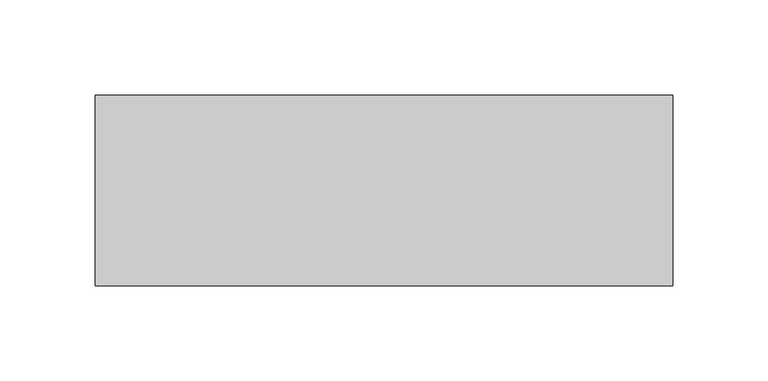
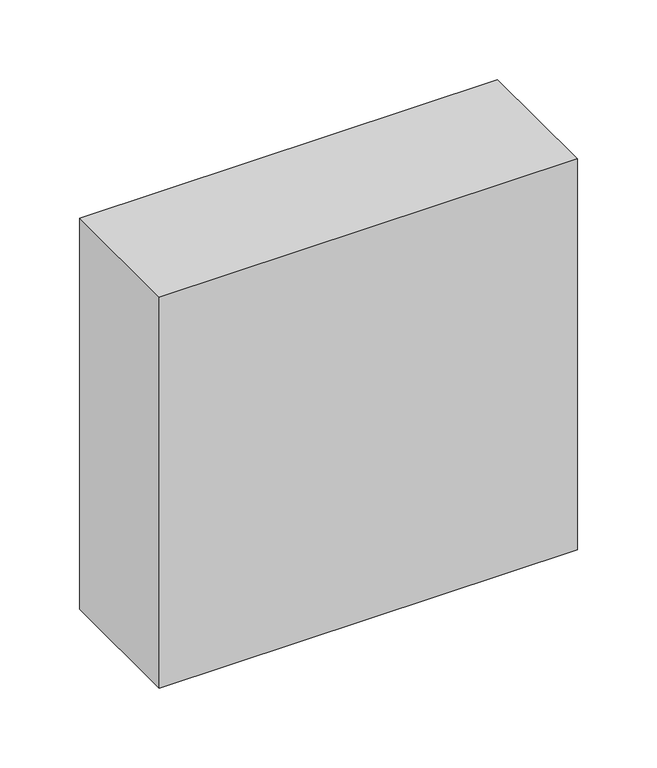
"""IFC4 building model written with IfcOpenShell, lengths in millimetres: plate geometry, 空系统嵌板 : 空."""

import ifcopenshell
import ifcopenshell.guid

model = None  # the IFC model being written
_history = None  # IfcOwnerHistory: only IFC2X3 demands one
_inside = {}  # id of a spatial element -> (the spatial element, [elements in it])
_under = {}  # id of a project, library or spatial element -> (it, [spatial elements below it])
_declared = {}  # id of a project -> (the project, [libraries it declares])
_typed = {}  # id of a type object -> (the type object, [elements of that type])
_made_of = {}  # id of a material, layer set ... -> (it, [elements and type objects made of it])


def new_model(schema):
    """Start an empty IFC model of exactly this schema.

    Asked for "IFC4X3", IfcOpenShell would pick the latest addendum, in which some entities
    have other attributes; the version numbers below select the first issue.
    IFC2X3 requires an IfcOwnerHistory on every rooted entity: one is made here for all.
    """
    global model, _history
    if schema == "IFC4X3":
        model = ifcopenshell.file(schema_version=(4, 3, 0, 0))
    else:
        model = ifcopenshell.file(schema=schema)
    _inside.clear()
    _under.clear()
    _declared.clear()
    _typed.clear()
    _made_of.clear()
    _history = None
    if model.schema == "IFC2X3":
        org = make("IfcOrganization", Name="unknown")
        user = make(
            "IfcPersonAndOrganization",
            ThePerson=make("IfcPerson", FamilyName="unknown"),
            TheOrganization=org,
        )
        app = make(
            "IfcApplication",
            ApplicationDeveloper=org,
            Version="unknown",
            ApplicationFullName="unknown",
            ApplicationIdentifier="unknown",
        )
        _history = make(
            "IfcOwnerHistory",
            OwningUser=user,
            OwningApplication=app,
            ChangeAction="ADDED",
            CreationDate=0,
        )
    return model


def make(cls, **values):
    """One entity of the class cls with the attributes given. An attribute that is None is left unset."""
    return model.create_entity(
        cls, **{name: value for name, value in values.items() if value is not None}
    )


def rooted(cls, **values):
    """An entity with a GlobalId (a new one), such as an element, a storey or a relation."""
    return make(cls, GlobalId=ifcopenshell.guid.new(), OwnerHistory=_history, **values)


def si_unit(unit_type, name, prefix=None):
    """IfcSIUnit, for example si_unit("LENGTHUNIT", "METRE", prefix="MILLI")."""
    return make("IfcSIUnit", UnitType=unit_type, Prefix=prefix, Name=name)


def assignment(units):
    """IfcUnitAssignment: the units of a project."""
    return None if units is None else make("IfcUnitAssignment", Units=units)


def point(xyz):
    """IfcCartesianPoint."""
    return None if xyz is None else make("IfcCartesianPoint", Coordinates=xyz)


def direction(xyz):
    """IfcDirection."""
    return None if xyz is None else make("IfcDirection", DirectionRatios=xyz)


def frame(location, z_axis=None, x_axis=None):
    """IfcAxis2Placement3D, a coordinate frame: its origin and axes. An axis left out is left unset."""
    return make(
        "IfcAxis2Placement3D",
        Location=point(location),
        Axis=direction(z_axis),
        RefDirection=direction(x_axis),
    )


def origin():
    """The frame at (0, 0, 0) with its axes left unset."""
    return frame((0.0, 0.0, 0.0))


def origin_with_axes():
    """The frame at (0, 0, 0) with the z axis (0, 0, 1) and the x axis (1, 0, 0) written out."""
    return frame((0.0, 0.0, 0.0), z_axis=(0.0, 0.0, 1.0), x_axis=(1.0, 0.0, 0.0))


def place(relative_to, where):
    """IfcLocalPlacement: puts the frame where relative to a parent placement (None: the world)."""
    return make(
        "IfcLocalPlacement", PlacementRelTo=relative_to, RelativePlacement=where
    )


def context(
    kind, dimensions, precision=None, world=None, true_north=None, identifier=None
):
    """IfcGeometricRepresentationContext, for example the 3D "Model" context."""
    return make(
        "IfcGeometricRepresentationContext",
        ContextIdentifier=identifier,
        ContextType=kind,
        CoordinateSpaceDimension=dimensions,
        Precision=precision,
        WorldCoordinateSystem=world,
        TrueNorth=true_north,
    )


def project(units=None, contexts=None):
    """IfcProject with its units and contexts."""
    return rooted(
        "IfcProject",
        Name="project",
        RepresentationContexts=contexts,
        UnitsInContext=assignment(units),
    )


def spatial(cls, under=None, at=None, **own):
    """A site, building, storey or space (cls), placed at a placement, below another one or the project."""
    s = rooted(cls, ObjectPlacement=at, **own)
    if under is not None:
        _under.setdefault(under.id(), (under, []))[1].append(s)
    return s


def polyline(points):
    """IfcPolyline through the points."""
    return make("IfcPolyline", Points=[point(p) for p in points])


def outline(outer, holes=None, kind="AREA"):
    """IfcArbitraryClosedProfileDef: a profile drawn as a closed curve; with holes, ...WithVoids."""
    if holes is None:
        return make("IfcArbitraryClosedProfileDef", ProfileType=kind, OuterCurve=outer)
    return make(
        "IfcArbitraryProfileDefWithVoids",
        ProfileType=kind,
        OuterCurve=outer,
        InnerCurves=holes,
    )


def extrude(swept, where, along, depth):
    """IfcExtrudedAreaSolid: the profile swept, set in the frame where, extruded along a direction by depth."""
    return make(
        "IfcExtrudedAreaSolid",
        SweptArea=swept,
        Position=where,
        ExtrudedDirection=direction(along),
        Depth=depth,
    )


def shape(context_of_items, identifier, shape_type, items):
    """IfcShapeRepresentation: the items that make up one representation, for example the "Body"."""
    return make(
        "IfcShapeRepresentation",
        ContextOfItems=context_of_items,
        RepresentationIdentifier=identifier,
        RepresentationType=shape_type,
        Items=items,
    )


def source(mapping_origin, context_of_items, identifier, shape_type, items):
    """IfcRepresentationMap: a shape defined once, which mapped items show again and again."""
    return make(
        "IfcRepresentationMap",
        MappingOrigin=mapping_origin,
        MappedRepresentation=shape(context_of_items, identifier, shape_type, items),
    )


def transform(
    local_origin,
    x_axis=None,
    y_axis=None,
    z_axis=None,
    scale=None,
    scale2=None,
    scale3=None,
    uniform=True,
):
    """IfcCartesianTransformationOperator3D, or its non-uniform kind. x_axis, y_axis, z_axis: its Axis1, 2, 3."""
    if uniform:
        return make(
            "IfcCartesianTransformationOperator3D",
            Axis1=direction(x_axis),
            Axis2=direction(y_axis),
            LocalOrigin=point(local_origin),
            Scale=scale,
            Axis3=direction(z_axis),
        )
    return make(
        "IfcCartesianTransformationOperator3DnonUniform",
        Axis1=direction(x_axis),
        Axis2=direction(y_axis),
        LocalOrigin=point(local_origin),
        Scale=scale,
        Axis3=direction(z_axis),
        Scale2=scale2,
        Scale3=scale3,
    )


def mapped(mapping_source, mapping_target):
    """IfcMappedItem: shows the shape of a source again, moved by a transform."""
    return make(
        "IfcMappedItem", MappingSource=mapping_source, MappingTarget=mapping_target
    )


def made_of(thing, what):
    """Note that an element or type object is made of a material, layer set ...; save() writes the relation."""
    if what is not None:
        _made_of.setdefault(what.id(), (what, []))[1].append(thing)
    return thing


def element(
    cls,
    number,
    at=None,
    inside=None,
    cuts=None,
    type_object=None,
    material=None,
    context=None,
    identifier="Body",
    shape_type=None,
    held_by="IfcProductDefinitionShape",
    body=None,
    shapes=None,
    **own,
):
    """One element of the class cls, such as IfcWall. Its Tag is "e" and its number.

    at: its placement. inside: the storey or other place that contains it. cuts: it is an
    opening in that element (IfcRelVoidsElement). A single representation is given by context,
    identifier, shape_type and body (its items); several are given by shapes. held_by: the class
    of the entity that holds the representations. save() writes the other relations.
    """
    e = rooted(cls, Tag="e%d" % number, ObjectPlacement=at, **own)
    if body is not None:
        shapes = [shape(context, identifier, shape_type, body)]
    if shapes is not None:
        e.Representation = make(held_by, Representations=shapes)
    if inside is not None:
        _inside.setdefault(inside.id(), (inside, []))[1].append(e)
    if cuts is not None:
        rooted(
            "IfcRelVoidsElement", RelatingBuildingElement=cuts, RelatedOpeningElement=e
        )
    if type_object is not None:
        _typed.setdefault(type_object.id(), (type_object, []))[1].append(e)
    return made_of(e, material)


def aggregate(whole, parts):
    """IfcRelAggregates: a whole, such as a stair, and the parts it consists of."""
    return rooted("IfcRelAggregates", RelatingObject=whole, RelatedObjects=parts)


def save(model, path):
    """Write the relations noted so far, then the file.

    IfcRelAggregates (storeys below a building ...), IfcRelContainedInSpatialStructure (elements
    in a storey), IfcRelDefinesByType, IfcRelAssociatesMaterial and IfcRelDeclares: one each for
    every whole, place, type object, material and project.
    """
    for whole, parts in _under.values():
        aggregate(whole, parts)
    for where, things in _inside.values():
        rooted(
            "IfcRelContainedInSpatialStructure",
            RelatedElements=things,
            RelatingStructure=where,
        )
    for kind, things in _typed.values():
        rooted("IfcRelDefinesByType", RelatedObjects=things, RelatingType=kind)
    for what, things in _made_of.values():
        rooted("IfcRelAssociatesMaterial", RelatedObjects=things, RelatingMaterial=what)
    for by, libraries in _declared.values():
        rooted("IfcRelDeclares", RelatingContext=by, RelatedDefinitions=libraries)
    model.write(path)


def plate_3941e747(model_context):
    return source(origin(), model_context, "Body", "SweptSolid", [
        extrude(outline(polyline([(151.75, -50.0), (-151.75, -50.0), (-151.75, 50.0), (151.75, 50.0), (151.75, -50.0)])), origin_with_axes(), (0.0, 0.0, 1.0), 300.0),
    ])


if __name__ == "__main__":
    model = new_model("IFC4")
    model_context = context("Model", 3, world=origin())
    ifc_project = project(units=[si_unit("LENGTHUNIT", "METRE", prefix="MILLI")], contexts=[model_context])
    site = spatial("IfcSite", under=ifc_project)
    building = spatial("IfcBuilding", under=site)
    placement = place(None, origin())
    plate_shape = plate_3941e747(model_context)
    element("IfcPlate", 1, ObjectType="空系统嵌板 : 空", at=placement, inside=building, context=model_context, shape_type="MappedRepresentation", body=[
        mapped(plate_shape, transform((0.0, 0.0, 0.0), x_axis=(1.0, 0.0, 0.0), y_axis=(0.0, 1.0, 0.0), z_axis=(0.0, 0.0, 1.0))),
    ])
    save(model, "model.ifc")
